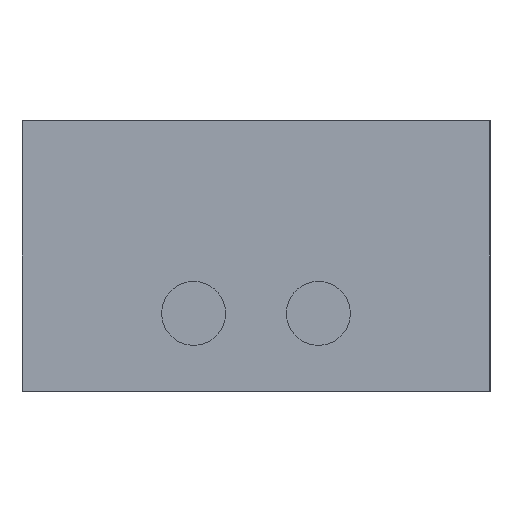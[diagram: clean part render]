
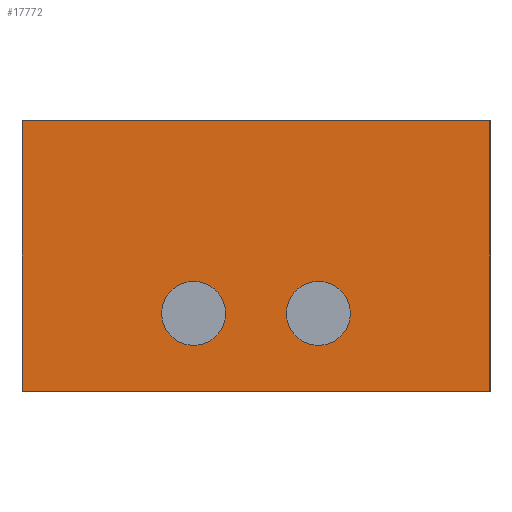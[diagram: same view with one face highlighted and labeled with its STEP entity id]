
A CAD part, left-side view. The second image highlights one B-rep face of the part: STEP entity #17772.
In plain terms, the highlighted planar face has unit normal (-1, 0, 0).
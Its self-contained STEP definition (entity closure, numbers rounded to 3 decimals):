
#2131 = PLANE('',#2132);
#2132 = AXIS2_PLACEMENT_3D('',#2133,#2134,#2135);
#2133 = CARTESIAN_POINT('',(0.,0.,86.8));
#2134 = DIRECTION('',(0.,0.,1.));
#2135 = DIRECTION('',(1.,0.,-0.));
#2162 = CYLINDRICAL_SURFACE('',#2163,10.25);
#2163 = AXIS2_PLACEMENT_3D('',#2164,#2165,#2166);
#2164 = CARTESIAN_POINT('',(-1.,95.,25.));
#2165 = DIRECTION('',(1.,0.,0.));
#2166 = DIRECTION('',(-0.,0.,1.));
#2193 = CYLINDRICAL_SURFACE('',#2194,10.25);
#2194 = AXIS2_PLACEMENT_3D('',#2195,#2196,#2197);
#2195 = CARTESIAN_POINT('',(-1.,55.,25.));
#2196 = DIRECTION('',(1.,0.,0.));
#2197 = DIRECTION('',(-0.,0.,1.));
#8940 = EDGE_CURVE('',#8941,#8943,#8945,.T.);
#8941 = VERTEX_POINT('',#8942);
#8942 = CARTESIAN_POINT('',(0.,0.,86.8));
#8943 = VERTEX_POINT('',#8944);
#8944 = CARTESIAN_POINT('',(0.,150.,86.8));
#8945 = SURFACE_CURVE('',#8946,(#8950,#8957),.PCURVE_S1.);
#8946 = LINE('',#8947,#8948);
#8947 = CARTESIAN_POINT('',(0.,0.,86.8));
#8948 = VECTOR('',#8949,1.);
#8949 = DIRECTION('',(-0.,1.,0.));
#8950 = PCURVE('',#2131,#8951);
#8951 = DEFINITIONAL_REPRESENTATION('',(#8952),#8956);
#8952 = LINE('',#8953,#8954);
#8953 = CARTESIAN_POINT('',(0.,0.));
#8954 = VECTOR('',#8955,1.);
#8955 = DIRECTION('',(0.,1.));
#8956 = ( GEOMETRIC_REPRESENTATION_CONTEXT(2) 
PARAMETRIC_REPRESENTATION_CONTEXT() REPRESENTATION_CONTEXT('2D SPACE',''
  ) );
#8957 = PCURVE('',#8958,#8963);
#8958 = PLANE('',#8959);
#8959 = AXIS2_PLACEMENT_3D('',#8960,#8961,#8962);
#8960 = CARTESIAN_POINT('',(0.,0.,0.));
#8961 = DIRECTION('',(1.,0.,-0.));
#8962 = DIRECTION('',(0.,0.,1.));
#8963 = DEFINITIONAL_REPRESENTATION('',(#8964),#8968);
#8964 = LINE('',#8965,#8966);
#8965 = CARTESIAN_POINT('',(86.8,0.));
#8966 = VECTOR('',#8967,1.);
#8967 = DIRECTION('',(0.,-1.));
#8968 = ( GEOMETRIC_REPRESENTATION_CONTEXT(2) 
PARAMETRIC_REPRESENTATION_CONTEXT() REPRESENTATION_CONTEXT('2D SPACE',''
  ) );
#8986 = PLANE('',#8987);
#8987 = AXIS2_PLACEMENT_3D('',#8988,#8989,#8990);
#8988 = CARTESIAN_POINT('',(0.,0.,0.));
#8989 = DIRECTION('',(-0.,1.,0.));
#8990 = DIRECTION('',(0.,0.,1.));
#9040 = PLANE('',#9041);
#9041 = AXIS2_PLACEMENT_3D('',#9042,#9043,#9044);
#9042 = CARTESIAN_POINT('',(0.,150.,0.));
#9043 = DIRECTION('',(-0.,1.,0.));
#9044 = DIRECTION('',(0.,0.,1.));
#9559 = VERTEX_POINT('',#9560);
#9560 = CARTESIAN_POINT('',(0.,95.,35.25));
#9581 = EDGE_CURVE('',#9559,#9559,#9582,.T.);
#9582 = SURFACE_CURVE('',#9583,(#9588,#9595),.PCURVE_S1.);
#9583 = CIRCLE('',#9584,10.25);
#9584 = AXIS2_PLACEMENT_3D('',#9585,#9586,#9587);
#9585 = CARTESIAN_POINT('',(0.,95.,25.));
#9586 = DIRECTION('',(1.,0.,0.));
#9587 = DIRECTION('',(-0.,0.,1.));
#9588 = PCURVE('',#2162,#9589);
#9589 = DEFINITIONAL_REPRESENTATION('',(#9590),#9594);
#9590 = LINE('',#9591,#9592);
#9591 = CARTESIAN_POINT('',(0.,1.));
#9592 = VECTOR('',#9593,1.);
#9593 = DIRECTION('',(1.,0.));
#9594 = ( GEOMETRIC_REPRESENTATION_CONTEXT(2) 
PARAMETRIC_REPRESENTATION_CONTEXT() REPRESENTATION_CONTEXT('2D SPACE',''
  ) );
#9595 = PCURVE('',#8958,#9596);
#9596 = DEFINITIONAL_REPRESENTATION('',(#9597),#9601);
#9597 = CIRCLE('',#9598,10.25);
#9598 = AXIS2_PLACEMENT_2D('',#9599,#9600);
#9599 = CARTESIAN_POINT('',(25.,-95.));
#9600 = DIRECTION('',(1.,0.));
#9601 = ( GEOMETRIC_REPRESENTATION_CONTEXT(2) 
PARAMETRIC_REPRESENTATION_CONTEXT() REPRESENTATION_CONTEXT('2D SPACE',''
  ) );
#9609 = VERTEX_POINT('',#9610);
#9610 = CARTESIAN_POINT('',(0.,55.,35.25));
#9631 = EDGE_CURVE('',#9609,#9609,#9632,.T.);
#9632 = SURFACE_CURVE('',#9633,(#9638,#9645),.PCURVE_S1.);
#9633 = CIRCLE('',#9634,10.25);
#9634 = AXIS2_PLACEMENT_3D('',#9635,#9636,#9637);
#9635 = CARTESIAN_POINT('',(0.,55.,25.));
#9636 = DIRECTION('',(1.,0.,0.));
#9637 = DIRECTION('',(-0.,0.,1.));
#9638 = PCURVE('',#2193,#9639);
#9639 = DEFINITIONAL_REPRESENTATION('',(#9640),#9644);
#9640 = LINE('',#9641,#9642);
#9641 = CARTESIAN_POINT('',(0.,1.));
#9642 = VECTOR('',#9643,1.);
#9643 = DIRECTION('',(1.,0.));
#9644 = ( GEOMETRIC_REPRESENTATION_CONTEXT(2) 
PARAMETRIC_REPRESENTATION_CONTEXT() REPRESENTATION_CONTEXT('2D SPACE',''
  ) );
#9645 = PCURVE('',#8958,#9646);
#9646 = DEFINITIONAL_REPRESENTATION('',(#9647),#9651);
#9647 = CIRCLE('',#9648,10.25);
#9648 = AXIS2_PLACEMENT_2D('',#9649,#9650);
#9649 = CARTESIAN_POINT('',(25.,-55.));
#9650 = DIRECTION('',(1.,0.));
#9651 = ( GEOMETRIC_REPRESENTATION_CONTEXT(2) 
PARAMETRIC_REPRESENTATION_CONTEXT() REPRESENTATION_CONTEXT('2D SPACE',''
  ) );
#11820 = PLANE('',#11821);
#11821 = AXIS2_PLACEMENT_3D('',#11822,#11823,#11824);
#11822 = CARTESIAN_POINT('',(0.,0.,0.));
#11823 = DIRECTION('',(0.,0.,1.));
#11824 = DIRECTION('',(1.,0.,-0.));
#17772 = ADVANCED_FACE('',(#17773,#17843,#17846),#8958,.F.);
#17773 = FACE_BOUND('',#17774,.F.);
#17774 = EDGE_LOOP('',(#17775,#17798,#17821,#17842));
#17775 = ORIENTED_EDGE('',*,*,#17776,.F.);
#17776 = EDGE_CURVE('',#17777,#8941,#17779,.T.);
#17777 = VERTEX_POINT('',#17778);
#17778 = CARTESIAN_POINT('',(0.,0.,0.));
#17779 = SURFACE_CURVE('',#17780,(#17784,#17791),.PCURVE_S1.);
#17780 = LINE('',#17781,#17782);
#17781 = CARTESIAN_POINT('',(0.,0.,0.));
#17782 = VECTOR('',#17783,1.);
#17783 = DIRECTION('',(0.,0.,1.));
#17784 = PCURVE('',#8958,#17785);
#17785 = DEFINITIONAL_REPRESENTATION('',(#17786),#17790);
#17786 = LINE('',#17787,#17788);
#17787 = CARTESIAN_POINT('',(0.,0.));
#17788 = VECTOR('',#17789,1.);
#17789 = DIRECTION('',(1.,0.));
#17790 = ( GEOMETRIC_REPRESENTATION_CONTEXT(2) 
PARAMETRIC_REPRESENTATION_CONTEXT() REPRESENTATION_CONTEXT('2D SPACE',''
  ) );
#17791 = PCURVE('',#8986,#17792);
#17792 = DEFINITIONAL_REPRESENTATION('',(#17793),#17797);
#17793 = LINE('',#17794,#17795);
#17794 = CARTESIAN_POINT('',(0.,0.));
#17795 = VECTOR('',#17796,1.);
#17796 = DIRECTION('',(1.,0.));
#17797 = ( GEOMETRIC_REPRESENTATION_CONTEXT(2) 
PARAMETRIC_REPRESENTATION_CONTEXT() REPRESENTATION_CONTEXT('2D SPACE',''
  ) );
#17798 = ORIENTED_EDGE('',*,*,#17799,.T.);
#17799 = EDGE_CURVE('',#17777,#17800,#17802,.T.);
#17800 = VERTEX_POINT('',#17801);
#17801 = CARTESIAN_POINT('',(0.,150.,0.));
#17802 = SURFACE_CURVE('',#17803,(#17807,#17814),.PCURVE_S1.);
#17803 = LINE('',#17804,#17805);
#17804 = CARTESIAN_POINT('',(0.,0.,0.));
#17805 = VECTOR('',#17806,1.);
#17806 = DIRECTION('',(-0.,1.,0.));
#17807 = PCURVE('',#8958,#17808);
#17808 = DEFINITIONAL_REPRESENTATION('',(#17809),#17813);
#17809 = LINE('',#17810,#17811);
#17810 = CARTESIAN_POINT('',(0.,0.));
#17811 = VECTOR('',#17812,1.);
#17812 = DIRECTION('',(0.,-1.));
#17813 = ( GEOMETRIC_REPRESENTATION_CONTEXT(2) 
PARAMETRIC_REPRESENTATION_CONTEXT() REPRESENTATION_CONTEXT('2D SPACE',''
  ) );
#17814 = PCURVE('',#11820,#17815);
#17815 = DEFINITIONAL_REPRESENTATION('',(#17816),#17820);
#17816 = LINE('',#17817,#17818);
#17817 = CARTESIAN_POINT('',(0.,0.));
#17818 = VECTOR('',#17819,1.);
#17819 = DIRECTION('',(0.,1.));
#17820 = ( GEOMETRIC_REPRESENTATION_CONTEXT(2) 
PARAMETRIC_REPRESENTATION_CONTEXT() REPRESENTATION_CONTEXT('2D SPACE',''
  ) );
#17821 = ORIENTED_EDGE('',*,*,#17822,.T.);
#17822 = EDGE_CURVE('',#17800,#8943,#17823,.T.);
#17823 = SURFACE_CURVE('',#17824,(#17828,#17835),.PCURVE_S1.);
#17824 = LINE('',#17825,#17826);
#17825 = CARTESIAN_POINT('',(0.,150.,0.));
#17826 = VECTOR('',#17827,1.);
#17827 = DIRECTION('',(0.,0.,1.));
#17828 = PCURVE('',#8958,#17829);
#17829 = DEFINITIONAL_REPRESENTATION('',(#17830),#17834);
#17830 = LINE('',#17831,#17832);
#17831 = CARTESIAN_POINT('',(0.,-150.));
#17832 = VECTOR('',#17833,1.);
#17833 = DIRECTION('',(1.,0.));
#17834 = ( GEOMETRIC_REPRESENTATION_CONTEXT(2) 
PARAMETRIC_REPRESENTATION_CONTEXT() REPRESENTATION_CONTEXT('2D SPACE',''
  ) );
#17835 = PCURVE('',#9040,#17836);
#17836 = DEFINITIONAL_REPRESENTATION('',(#17837),#17841);
#17837 = LINE('',#17838,#17839);
#17838 = CARTESIAN_POINT('',(0.,0.));
#17839 = VECTOR('',#17840,1.);
#17840 = DIRECTION('',(1.,0.));
#17841 = ( GEOMETRIC_REPRESENTATION_CONTEXT(2) 
PARAMETRIC_REPRESENTATION_CONTEXT() REPRESENTATION_CONTEXT('2D SPACE',''
  ) );
#17842 = ORIENTED_EDGE('',*,*,#8940,.F.);
#17843 = FACE_BOUND('',#17844,.F.);
#17844 = EDGE_LOOP('',(#17845));
#17845 = ORIENTED_EDGE('',*,*,#9581,.F.);
#17846 = FACE_BOUND('',#17847,.F.);
#17847 = EDGE_LOOP('',(#17848));
#17848 = ORIENTED_EDGE('',*,*,#9631,.F.);
